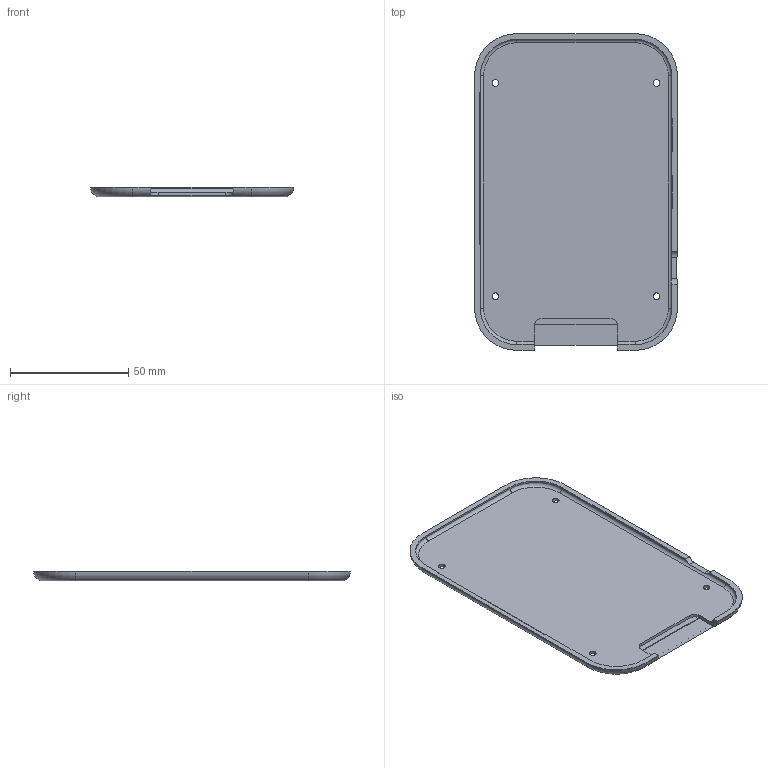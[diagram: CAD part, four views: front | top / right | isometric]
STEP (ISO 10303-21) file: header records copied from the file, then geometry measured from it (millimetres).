
FILE_DESCRIPTION(('Open CASCADE Model'),'2;1');
FILE_NAME('Open CASCADE Shape Model','2026-09-04T20:35:46',('Author'),( 'Open CASCADE'),'Open CASCADE STEP processor 7.7','Open CASCADE 7.7' ,'Unknown');
FILE_SCHEMA(('AUTOMOTIVE_DESIGN { 1 0 10303 214 1 1 1 1 }'));
Length unit declared in the file: millimetre
Products named in the file (1): Open CASCADE STEP translator 7.7 3
Bounding box: 85.6 x 133.6 x 4.1 mm (x, y, z)
Volume: 22271 mm3; surface area: 23745.9 mm2
Topology: 1 solids, 1 shells, 76 faces, 194 edges, 124 vertices
Faces by surface type: cylinder 35, plane 33, torus 8
Full cylindrical faces by diameter (mm): 2.8 x4, 5.3 x4
Entity records: 4999 total; most frequent: CARTESIAN_POINT 1263, DIRECTION 661, ORIENTED_EDGE 388, PCURVE 388, DEFINITIONAL_REPRESENTATION 388, LINE 320, VECTOR 320, EDGE_CURVE 194
